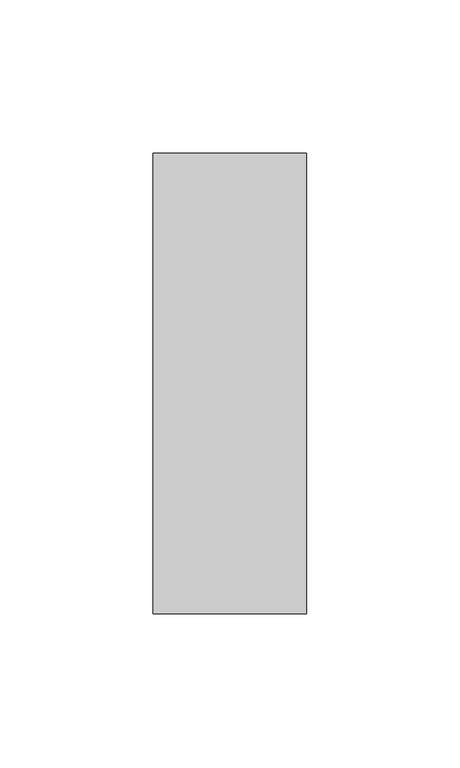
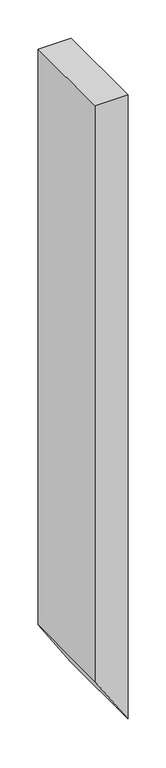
"""IFC4 building model written with IfcOpenShell, lengths in millimetres: member geometry, Прямоугольный импост : 50 x 150 мм."""

from ifc_helpers import new_model, si_unit, frame, origin, place, context, project, spatial, polyline, outline, extrude, source, transform, mapped, element, save


def member_b49e9323(model_context):
    return source(origin(), model_context, "Body", "SweptSolid", [
        extrude(outline(polyline([(0.0, 0.0), (0.0, -50.0), (-922.4595981, -50.0), (-1000.0, 0.0), (0.0, 0.0)])), frame((0.0, -75.0, 0.0), z_axis=(0.0, 1.0, 0.0), x_axis=(0.0, 0.0, 1.0)), (0.0, 0.0, 1.0), 150.0),
    ])


if __name__ == "__main__":
    model = new_model("IFC4")
    model_context = context("Model", 3, world=origin())
    ifc_project = project(units=[si_unit("LENGTHUNIT", "METRE", prefix="MILLI")], contexts=[model_context])
    site = spatial("IfcSite", under=ifc_project)
    building = spatial("IfcBuilding", under=site)
    placement = place(None, origin())
    member_shape = member_b49e9323(model_context)
    element("IfcMember", 1, ObjectType="Прямоугольный импост : 50 x 150 мм", at=placement, inside=building, context=model_context, shape_type="MappedRepresentation", body=[
        mapped(member_shape, transform((0.0, 0.0, 0.0), x_axis=(1.0, 0.0, 0.0), y_axis=(0.0, 1.0, 0.0), z_axis=(0.0, 0.0, 1.0))),
    ])
    save(model, "model.ifc")
